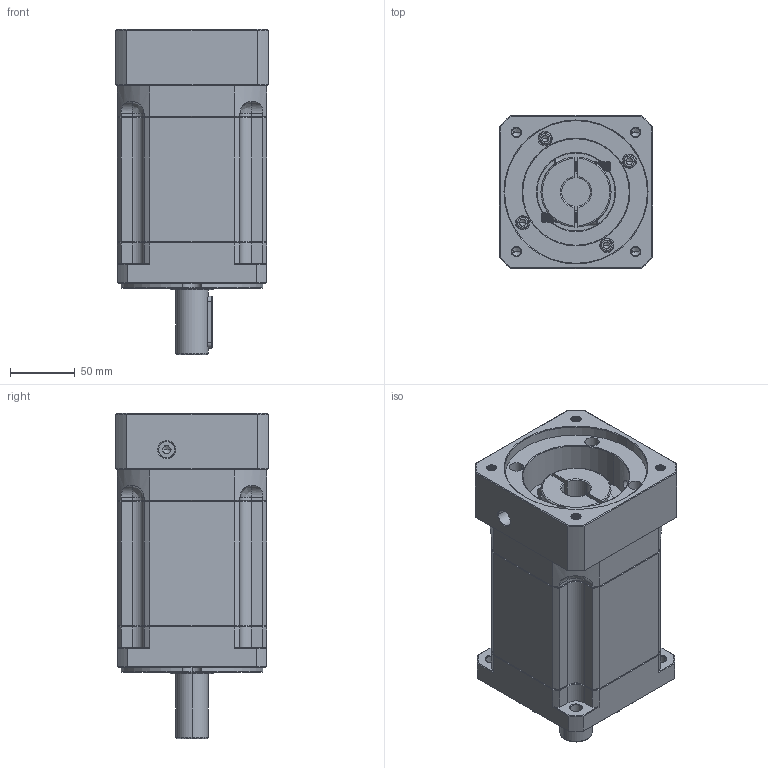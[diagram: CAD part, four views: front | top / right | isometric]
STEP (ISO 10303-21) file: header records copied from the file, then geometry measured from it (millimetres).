
FILE_DESCRIPTION (( 'STEP AP214' ), '1' );
FILE_NAME ('ZB115A-D25-L3-22-110-130-M8.step', '2023-03-02T08:58:33', ( '' ), ( 'Microsoft' ), 'SwSTEP 2.0', 'SolidWorks 2016', '' );
FILE_SCHEMA (( 'AUTOMOTIVE_DESIGN' ));
Length unit declared in the file: millimetre
Products named in the file (1): ZB115A-D25-L3-22-110-130-M8
Bounding box: 118 x 118 x 250.5 mm (x, y, z)
Volume: 2203805 mm3; surface area: 193642.7 mm2
Topology: 6 solids, 6 shells, 2118 faces, 5466 edges, 3443 vertices
Faces by surface type: plane 964, cylinder 441, cone 368, bspline 325, torus 20
Entity records: 113189 total; most frequent: CARTESIAN_POINT 41193, ORIENTED_EDGE 10864, DIRECTION 8919, EDGE_CURVE 5432, VERTEX_POINT 3443, VECTOR 3375, LINE 3375, AXIS2_PLACEMENT_3D 2772
